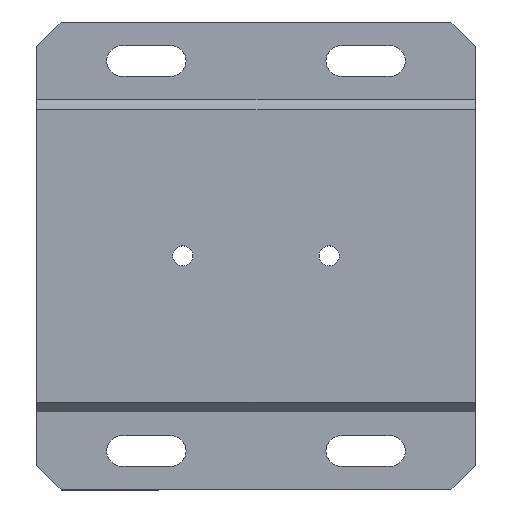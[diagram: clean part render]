
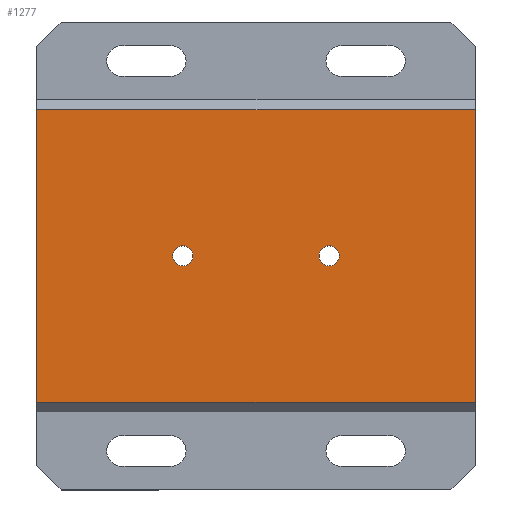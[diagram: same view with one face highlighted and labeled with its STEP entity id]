
A CAD part, top view. The second image highlights one B-rep face of the part: STEP entity #1277.
In plain terms, the highlighted planar face has unit normal (0, 0, 1).
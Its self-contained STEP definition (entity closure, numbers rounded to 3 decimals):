
#16 = EDGE_LOOP ( 'NONE', ( #561, #360 ) ) ;
#30 = DIRECTION ( 'NONE',  ( -1., 0., 0. ) ) ;
#46 = ORIENTED_EDGE ( 'NONE', *, *, #517, .F. ) ;
#123 = EDGE_CURVE ( 'NONE', #228, #1266, #719, .T. ) ;
#133 = CARTESIAN_POINT ( 'NONE',  ( -90., -30., 17.5 ) ) ;
#143 = CARTESIAN_POINT ( 'NONE',  ( 0., 30., 17.5 ) ) ;
#155 = DIRECTION ( 'NONE',  ( 1., 0., 0. ) ) ;
#179 = CARTESIAN_POINT ( 'NONE',  ( 0., -30., 17.5 ) ) ;
#185 = DIRECTION ( 'NONE',  ( 0., 0., 1. ) ) ;
#189 = CARTESIAN_POINT ( 'NONE',  ( -60., 0., 17.5 ) ) ;
#194 = VECTOR ( 'NONE', #892, 1000. ) ;
#215 = EDGE_LOOP ( 'NONE', ( #408, #390, #838, #1234 ) ) ;
#218 = CARTESIAN_POINT ( 'NONE',  ( -60., 0., 17.5 ) ) ;
#227 = CARTESIAN_POINT ( 'NONE',  ( -27.933, 0., 17.5 ) ) ;
#228 = VERTEX_POINT ( 'NONE', #143 ) ;
#241 = AXIS2_PLACEMENT_3D ( 'NONE', #189, #765, #935 ) ;
#254 = VECTOR ( 'NONE', #1358, 1000. ) ;
#282 = PLANE ( 'NONE',  #751 ) ;
#360 = ORIENTED_EDGE ( 'NONE', *, *, #850, .F. ) ;
#365 = CARTESIAN_POINT ( 'NONE',  ( -32.067, 0., 17.5 ) ) ;
#390 = ORIENTED_EDGE ( 'NONE', *, *, #1410, .T. ) ;
#408 = ORIENTED_EDGE ( 'NONE', *, *, #1341, .T. ) ;
#436 = VECTOR ( 'NONE', #30, 1000. ) ;
#438 = CARTESIAN_POINT ( 'NONE',  ( -62.067, 0., 17.5 ) ) ;
#502 = CARTESIAN_POINT ( 'NONE',  ( -90., 30., 17.5 ) ) ;
#514 = CARTESIAN_POINT ( 'NONE',  ( -30., 0., 17.5 ) ) ;
#517 = EDGE_CURVE ( 'NONE', #806, #674, #1432, .T. ) ;
#561 = ORIENTED_EDGE ( 'NONE', *, *, #980, .F. ) ;
#619 = EDGE_LOOP ( 'NONE', ( #46, #1036 ) ) ;
#624 = DIRECTION ( 'NONE',  ( -1., 0., 0. ) ) ;
#642 = EDGE_CURVE ( 'NONE', #674, #806, #1150, .T. ) ;
#662 = CIRCLE ( 'NONE', #812, 2.067 ) ;
#664 = DIRECTION ( 'NONE',  ( -1., 0., 0. ) ) ;
#674 = VERTEX_POINT ( 'NONE', #438 ) ;
#688 = FACE_BOUND ( 'NONE', #619, .T. ) ;
#715 = DIRECTION ( 'NONE',  ( 0., 0., 1. ) ) ;
#719 = LINE ( 'NONE', #1262, #436 ) ;
#738 = EDGE_CURVE ( 'NONE', #798, #228, #1041, .T. ) ;
#744 = VERTEX_POINT ( 'NONE', #227 ) ;
#751 = AXIS2_PLACEMENT_3D ( 'NONE', #836, #715, #1063 ) ;
#765 = DIRECTION ( 'NONE',  ( 0., 0., 1. ) ) ;
#798 = VERTEX_POINT ( 'NONE', #179 ) ;
#806 = VERTEX_POINT ( 'NONE', #1391 ) ;
#812 = AXIS2_PLACEMENT_3D ( 'NONE', #857, #185, #967 ) ;
#836 = CARTESIAN_POINT ( 'NONE',  ( 0., 0., 17.5 ) ) ;
#838 = ORIENTED_EDGE ( 'NONE', *, *, #738, .T. ) ;
#850 = EDGE_CURVE ( 'NONE', #1367, #744, #1109, .T. ) ;
#857 = CARTESIAN_POINT ( 'NONE',  ( -30., 0., 17.5 ) ) ;
#892 = DIRECTION ( 'NONE',  ( 0., 1., 0. ) ) ;
#935 = DIRECTION ( 'NONE',  ( -1., 0., 0. ) ) ;
#936 = LINE ( 'NONE', #942, #1227 ) ;
#942 = CARTESIAN_POINT ( 'NONE',  ( 0., -30., 17.5 ) ) ;
#967 = DIRECTION ( 'NONE',  ( -1., 0., 0. ) ) ;
#980 = EDGE_CURVE ( 'NONE', #744, #1367, #662, .T. ) ;
#1017 = AXIS2_PLACEMENT_3D ( 'NONE', #218, #1318, #664 ) ;
#1036 = ORIENTED_EDGE ( 'NONE', *, *, #642, .F. ) ;
#1041 = LINE ( 'NONE', #1117, #194 ) ;
#1063 = DIRECTION ( 'NONE',  ( 1., 0., 0. ) ) ;
#1109 = CIRCLE ( 'NONE', #1211, 2.067 ) ;
#1117 = CARTESIAN_POINT ( 'NONE',  ( 0., -32., 17.5 ) ) ;
#1146 = LINE ( 'NONE', #1248, #254 ) ;
#1150 = CIRCLE ( 'NONE', #241, 2.067 ) ;
#1211 = AXIS2_PLACEMENT_3D ( 'NONE', #514, #1272, #624 ) ;
#1214 = FACE_BOUND ( 'NONE', #16, .T. ) ;
#1227 = VECTOR ( 'NONE', #155, 1000. ) ;
#1234 = ORIENTED_EDGE ( 'NONE', *, *, #123, .T. ) ;
#1240 = FACE_OUTER_BOUND ( 'NONE', #215, .T. ) ;
#1248 = CARTESIAN_POINT ( 'NONE',  ( -90., 32., 17.5 ) ) ;
#1262 = CARTESIAN_POINT ( 'NONE',  ( 0., 30., 17.5 ) ) ;
#1266 = VERTEX_POINT ( 'NONE', #502 ) ;
#1272 = DIRECTION ( 'NONE',  ( 0., 0., 1. ) ) ;
#1277 = ADVANCED_FACE ( 'NONE', ( #688, #1214, #1240 ), #282, .T. ) ;
#1318 = DIRECTION ( 'NONE',  ( 0., 0., 1. ) ) ;
#1333 = VERTEX_POINT ( 'NONE', #133 ) ;
#1341 = EDGE_CURVE ( 'NONE', #1266, #1333, #1146, .T. ) ;
#1358 = DIRECTION ( 'NONE',  ( 0., -1., 0. ) ) ;
#1367 = VERTEX_POINT ( 'NONE', #365 ) ;
#1391 = CARTESIAN_POINT ( 'NONE',  ( -57.933, 0., 17.5 ) ) ;
#1410 = EDGE_CURVE ( 'NONE', #1333, #798, #936, .T. ) ;
#1432 = CIRCLE ( 'NONE', #1017, 2.067 ) ;
